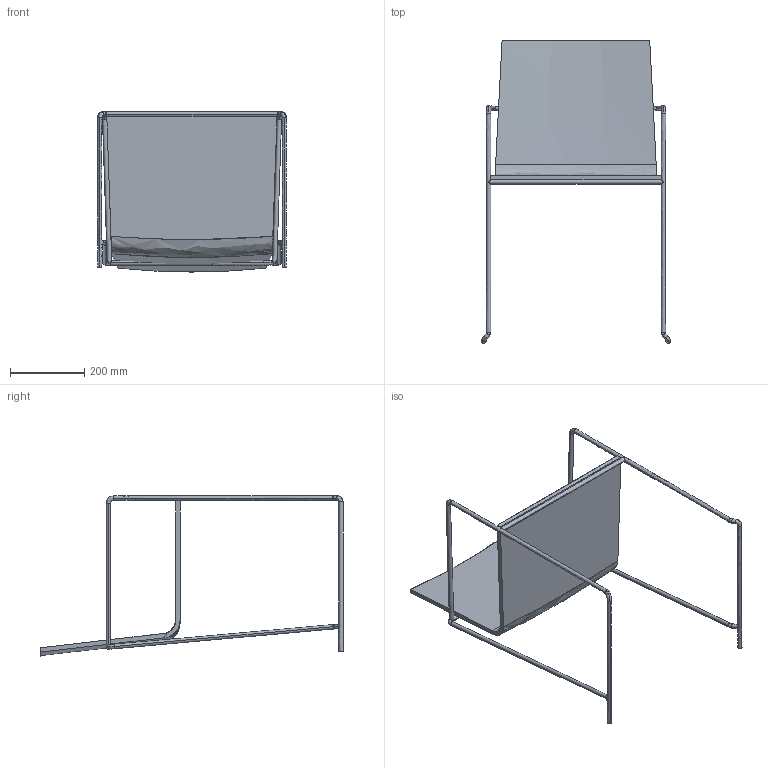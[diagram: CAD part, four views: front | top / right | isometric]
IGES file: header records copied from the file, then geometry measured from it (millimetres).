
Start section: SolidWorks IGES FILE using analytic representation for surfaces
Global section: file name: Z:\VIABLE 2006 TECNICO\OFICINA TECNICA\FABRICACIÓN\Producto\MODELADOS\RS\RS brazos.IGS; native system: SolidWorks 2004 by SolidWorks Corporation; preprocessor: Version 5.3; author: DAVID204; date: 060425.135712; units: millimetre
Bounding box: 510 x 816.16 x 432.2 mm (x, y, z)
Surface area: 850724.8 mm2 (no closed solid volume)
Topology: 0 solids, 0 shells, 72 faces, 1054 edges, 1054 vertices
Faces by surface type: bspline 54, revolution 18
